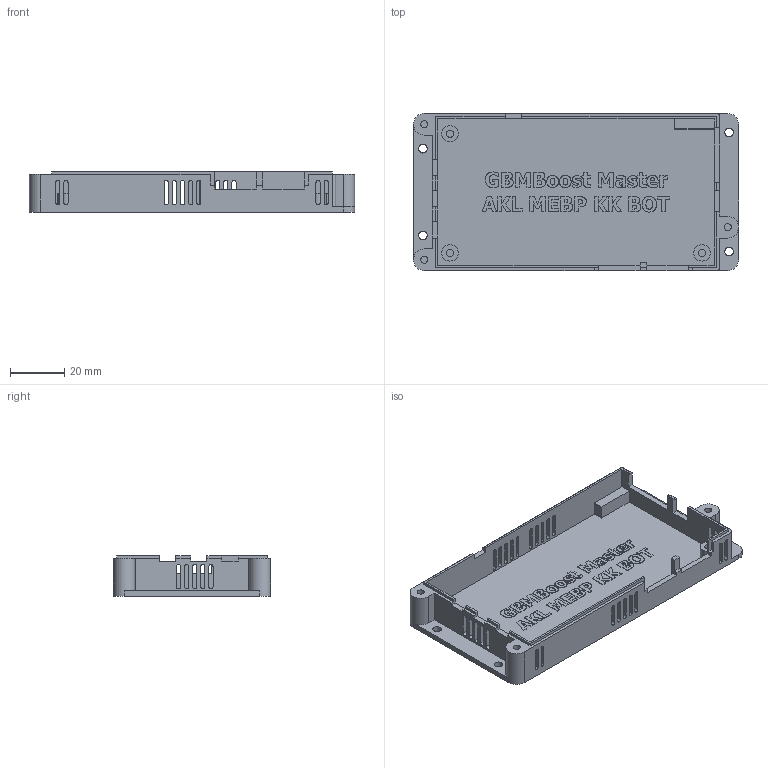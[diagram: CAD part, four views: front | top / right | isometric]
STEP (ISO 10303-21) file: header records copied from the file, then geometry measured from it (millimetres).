
FILE_DESCRIPTION(/* description */ (''),/* implementation_level */ '2;1');
FILE_NAME(/* name */ 'E:\Inventor-Dateien\GBMBoost_Master_AKL_MEBP_KK\GBMBoost_Master_AKL_MEBP_KK_BOT.stp',/* time_stamp */ '2022-02-07T14:14:22+01:00',/* author */ ('Hans'),/* organization */ (''),/* preprocessor_version */ 'ST-DEVELOPER v16.5',/* originating_system */ 'Autodesk Inventor 2017',/* authorisation */ '');
FILE_SCHEMA (('AUTOMOTIVE_DESIGN { 1 0 10303 214 3 1 1 }'));
Length unit declared in the file: millimetre
Products named in the file (1): GBMBoost_Master_XP_AKL_MEBP_BOT
Bounding box: 120 x 58 x 15 mm (x, y, z)
Volume: 22592.7 mm3; surface area: 23738.1 mm2
Topology: 1 solids, 1 shells, 666 faces, 1841 edges, 1227 vertices
Faces by surface type: plane 405, bspline 187, cylinder 74
Full cylindrical faces by diameter (mm): 2.6 x6, 3.2 x4, 6 x3
Entity records: 22133 total; most frequent: CARTESIAN_POINT 6153, ORIENTED_EDGE 3656, DIRECTION 2565, EDGE_CURVE 1828, LINE 1303, VECTOR 1303, VERTEX_POINT 1227, EDGE_LOOP 791
